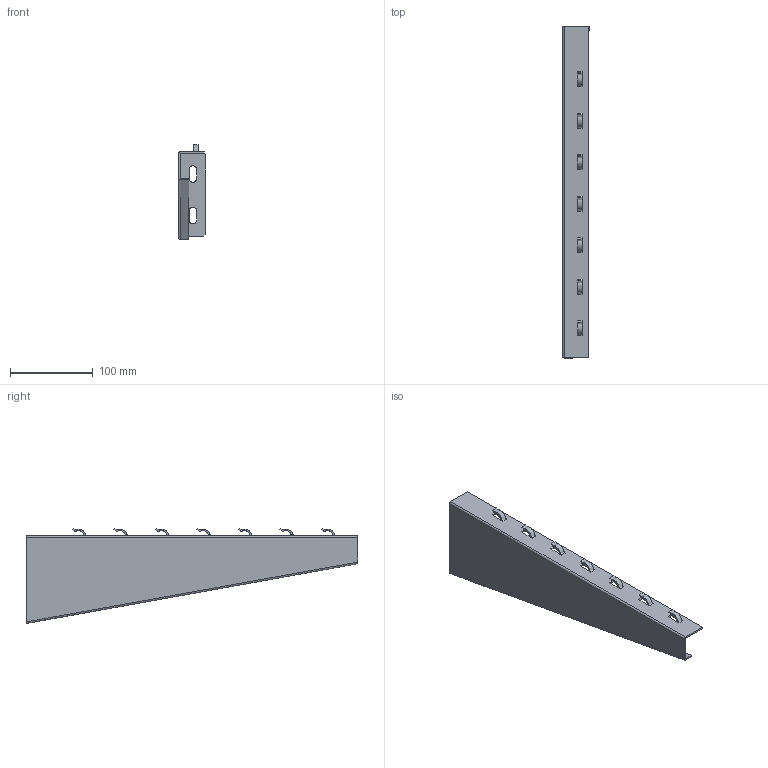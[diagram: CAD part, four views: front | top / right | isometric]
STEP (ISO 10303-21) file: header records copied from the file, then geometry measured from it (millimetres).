
FILE_DESCRIPTION(/* description */ (''),/* implementation_level */ '2;1');
FILE_NAME(/* name */ 'NZM400',/* time_stamp */ '2012-11-29T22:27:19+01:00',/* author */ (''),/* organization */ (''),/* preprocessor_version */ 'ST-DEVELOPER v10',/* originating_system */ '',/* authorisation */ '');
FILE_SCHEMA (('AUTOMOTIVE_DESIGN_CC2'));
Length unit declared in the file: millimetre
Products named in the file (1): 1
Bounding box: 32 x 400 x 114.47 mm (x, y, z)
Surface area: 97885.2 mm2 (no closed solid volume)
Topology: 0 solids, 186 shells, 188 faces, 967 edges, 962 vertices
Faces by surface type: bspline 106, plane 82
Entity records: 14244 total; most frequent: CARTESIAN_POINT 8058, ORIENTED_EDGE 970, EDGE_CURVE 966, VERTEX_POINT 962, B_SPLINE_CURVE_WITH_KNOTS 542, EDGE_LOOP 206, ADVANCED_FACE 188, FACE_OUTER_BOUND 188
